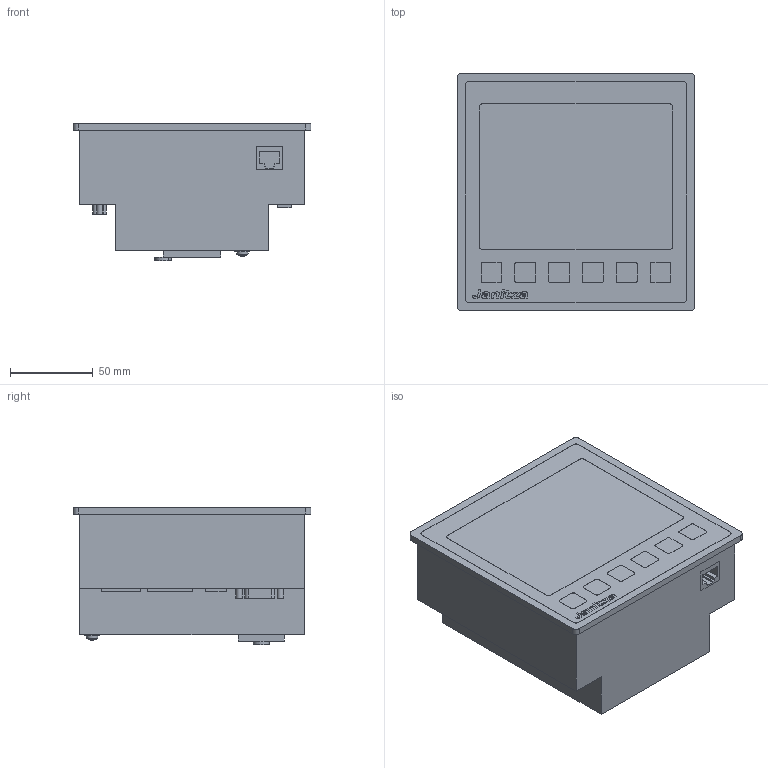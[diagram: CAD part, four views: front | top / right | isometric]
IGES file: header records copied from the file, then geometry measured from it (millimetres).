
Global section: file name: No Iges File Name specified; native system: AutoDesk Inventor R6.1; preprocessor: AutoDesk Inventor Iges Exporter R6.1; author: No Author specified; organization: No Organization specified; date: 20141203.230441; units: millimetre
Bounding box: 144 x 144 x 83 mm (x, y, z)
Surface area: 155762 mm2 (no closed solid volume)
Topology: 0 solids, 0 shells, 952 faces, 4874 edges, 4790 vertices
Faces by surface type: plane 644, revolution 198, bspline 110
